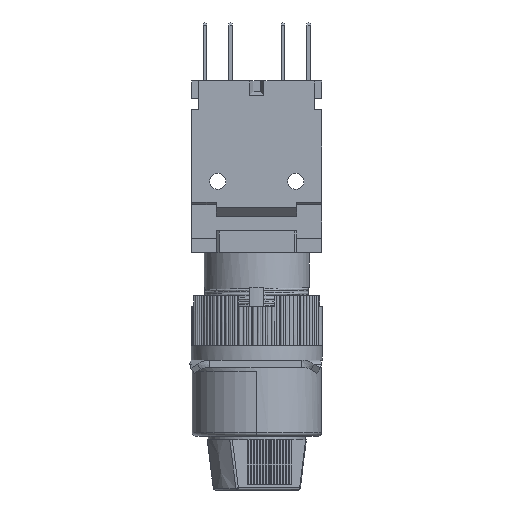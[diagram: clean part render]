
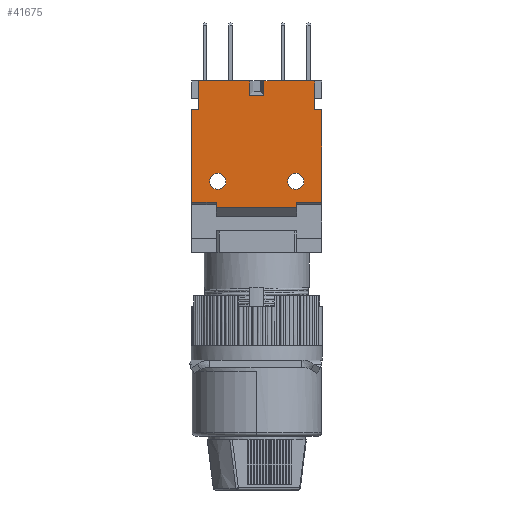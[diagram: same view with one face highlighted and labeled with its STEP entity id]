
A CAD part, front view. The second image highlights one B-rep face of the part: STEP entity #41675.
In plain terms, the highlighted planar face has unit normal (0, -1, 0).
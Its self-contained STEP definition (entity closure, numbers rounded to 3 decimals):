
#13012=DIRECTION('',(0.,0.,1.));
#13013=VECTOR('',#13012,4.);
#13014=CARTESIAN_POINT('',(17.1,0.05,-12.2));
#13015=LINE('',#13014,#13013);
#13096=DIRECTION('',(-1.,0.,0.));
#13097=VECTOR('',#13096,1.);
#13098=CARTESIAN_POINT('',(18.1,0.05,-12.2));
#13099=LINE('',#13098,#13097);
#13112=DIRECTION('',(1.,0.,0.));
#13113=VECTOR('',#13112,7.05);
#13114=CARTESIAN_POINT('',(10.05,0.05,-8.2));
#13115=LINE('',#13114,#13113);
#13116=DIRECTION('',(0.,0.,-1.));
#13117=VECTOR('',#13116,12.9);
#13118=CARTESIAN_POINT('',(18.1,0.05,-12.2));
#13119=LINE('',#13118,#13117);
#13120=DIRECTION('',(0.,0.,-1.));
#13121=VECTOR('',#13120,0.75);
#13122=CARTESIAN_POINT('',(14.6,0.05,-25.1));
#13123=LINE('',#13122,#13121);
#13124=DIRECTION('',(0.,0.,1.));
#13125=VECTOR('',#13124,12.9);
#13126=CARTESIAN_POINT('',(0.,0.05,-25.1));
#13127=LINE('',#13126,#13125);
#13128=DIRECTION('',(0.,0.,1.));
#13129=VECTOR('',#13128,4.);
#13130=CARTESIAN_POINT('',(1.,0.05,-12.2));
#13131=LINE('',#13130,#13129);
#13132=DIRECTION('',(1.,0.,0.));
#13133=VECTOR('',#13132,7.05);
#13134=CARTESIAN_POINT('',(1.,0.05,-8.2));
#13135=LINE('',#13134,#13133);
#13136=CARTESIAN_POINT('',(14.475,0.05,-22.165));
#13137=DIRECTION('',(0.,-1.,0.));
#13138=DIRECTION('',(-1.,0.,0.));
#13139=AXIS2_PLACEMENT_3D('',#13136,#13137,#13138);
#13141=CARTESIAN_POINT('',(14.475,0.05,-22.165));
#13142=DIRECTION('',(0.,-1.,0.));
#13143=DIRECTION('',(1.,0.,0.));
#13144=AXIS2_PLACEMENT_3D('',#13141,#13142,#13143);
#13146=CARTESIAN_POINT('',(3.625,0.05,-22.165));
#13147=DIRECTION('',(0.,-1.,0.));
#13148=DIRECTION('',(-1.,0.,0.));
#13149=AXIS2_PLACEMENT_3D('',#13146,#13147,#13148);
#13151=CARTESIAN_POINT('',(3.625,0.05,-22.165));
#13152=DIRECTION('',(0.,-1.,0.));
#13153=DIRECTION('',(1.,0.,0.));
#13154=AXIS2_PLACEMENT_3D('',#13151,#13152,#13153);
#13156=DIRECTION('',(0.,0.,-1.));
#13157=VECTOR('',#13156,2.);
#13158=CARTESIAN_POINT('',(10.05,0.05,-8.2));
#13159=LINE('',#13158,#13157);
#13160=DIRECTION('',(-1.,0.,0.));
#13161=VECTOR('',#13160,2.);
#13162=CARTESIAN_POINT('',(10.05,0.05,-10.2));
#13163=LINE('',#13162,#13161);
#13172=DIRECTION('',(0.,0.,1.));
#13173=VECTOR('',#13172,2.);
#13174=CARTESIAN_POINT('',(8.05,0.05,-10.2));
#13175=LINE('',#13174,#13173);
#13196=DIRECTION('',(1.,0.,0.));
#13197=VECTOR('',#13196,3.5);
#13198=CARTESIAN_POINT('',(14.6,0.05,-25.1));
#13199=LINE('',#13198,#13197);
#15186=DIRECTION('',(1.,0.,0.));
#15187=VECTOR('',#15186,3.4);
#15188=CARTESIAN_POINT('',(0.,0.05,-25.1));
#15189=LINE('',#15188,#15187);
#15198=DIRECTION('',(0.,0.,-1.));
#15199=VECTOR('',#15198,0.75);
#15200=CARTESIAN_POINT('',(3.4,0.05,-25.1));
#15201=LINE('',#15200,#15199);
#15206=DIRECTION('',(1.,0.,0.));
#15207=VECTOR('',#15206,11.2);
#15208=CARTESIAN_POINT('',(3.4,0.05,-25.85));
#15209=LINE('',#15208,#15207);
#15254=DIRECTION('',(-1.,0.,0.));
#15255=VECTOR('',#15254,1.);
#15256=CARTESIAN_POINT('',(1.,0.05,-12.2));
#15257=LINE('',#15256,#15255);
#18279=CARTESIAN_POINT('',(18.1,0.05,-25.1));
#18280=VERTEX_POINT('',#18279);
#18281=CARTESIAN_POINT('',(18.1,0.05,-12.2));
#18282=VERTEX_POINT('',#18281);
#18321=CARTESIAN_POINT('',(17.1,0.05,-8.2));
#18322=VERTEX_POINT('',#18321);
#18323=CARTESIAN_POINT('',(10.05,0.05,-8.2));
#18324=VERTEX_POINT('',#18323);
#18329=CARTESIAN_POINT('',(8.05,0.05,-8.2));
#18330=VERTEX_POINT('',#18329);
#18331=CARTESIAN_POINT('',(1.,0.05,-8.2));
#18332=VERTEX_POINT('',#18331);
#19549=CARTESIAN_POINT('',(14.6,0.05,-25.1));
#19550=CARTESIAN_POINT('',(14.6,0.05,-25.85));
#19551=VERTEX_POINT('',#19549);
#19552=VERTEX_POINT('',#19550);
#19657=CARTESIAN_POINT('',(0.,0.05,-12.2));
#19658=VERTEX_POINT('',#19657);
#19659=CARTESIAN_POINT('',(0.,0.05,-25.1));
#19661=VERTEX_POINT('',#19659);
#19686=CARTESIAN_POINT('',(1.,0.05,-12.2));
#19688=VERTEX_POINT('',#19686);
#19707=CARTESIAN_POINT('',(13.35,0.05,-22.165));
#19708=CARTESIAN_POINT('',(15.6,0.05,-22.165));
#19709=VERTEX_POINT('',#19707);
#19710=VERTEX_POINT('',#19708);
#19711=CARTESIAN_POINT('',(2.5,0.05,-22.165));
#19712=CARTESIAN_POINT('',(4.75,0.05,-22.165));
#19713=VERTEX_POINT('',#19711);
#19714=VERTEX_POINT('',#19712);
#19715=CARTESIAN_POINT('',(10.05,0.05,-10.2));
#19716=VERTEX_POINT('',#19715);
#19717=CARTESIAN_POINT('',(17.1,0.05,-12.2));
#19718=VERTEX_POINT('',#19717);
#19719=CARTESIAN_POINT('',(3.4,0.05,-25.85));
#19720=VERTEX_POINT('',#19719);
#19721=CARTESIAN_POINT('',(3.4,0.05,-25.1));
#19722=VERTEX_POINT('',#19721);
#19723=CARTESIAN_POINT('',(8.05,0.05,-10.2));
#19724=VERTEX_POINT('',#19723);
#41630=CARTESIAN_POINT('',(9.05,0.05,-17.025));
#41631=DIRECTION('',(0.,1.,0.));
#41632=DIRECTION('',(1.,0.,0.));
#41633=AXIS2_PLACEMENT_3D('',#41630,#41631,#41632);
#41634=PLANE('',#41633);
#41636=ORIENTED_EDGE('',*,*,#41635,.F.);
#41637=ORIENTED_EDGE('',*,*,#41342,.T.);
#41638=ORIENTED_EDGE('',*,*,#41487,.F.);
#41639=ORIENTED_EDGE('',*,*,#41622,.F.);
#41640=ORIENTED_EDGE('',*,*,#41046,.T.);
#41642=ORIENTED_EDGE('',*,*,#41641,.F.);
#41644=ORIENTED_EDGE('',*,*,#41643,.T.);
#41646=ORIENTED_EDGE('',*,*,#41645,.F.);
#41648=ORIENTED_EDGE('',*,*,#41647,.F.);
#41650=ORIENTED_EDGE('',*,*,#41649,.F.);
#41651=ORIENTED_EDGE('',*,*,#41179,.T.);
#41653=ORIENTED_EDGE('',*,*,#41652,.F.);
#41655=ORIENTED_EDGE('',*,*,#41654,.T.);
#41656=ORIENTED_EDGE('',*,*,#41350,.T.);
#41658=ORIENTED_EDGE('',*,*,#41657,.F.);
#41660=ORIENTED_EDGE('',*,*,#41659,.F.);
#41661=EDGE_LOOP('',(#41636,#41637,#41638,#41639,#41640,#41642,#41644,#41646,
#41648,#41650,#41651,#41653,#41655,#41656,#41658,#41660));
#41662=FACE_OUTER_BOUND('',#41661,.F.);
#41664=ORIENTED_EDGE('',*,*,#41663,.T.);
#41666=ORIENTED_EDGE('',*,*,#41665,.T.);
#41667=EDGE_LOOP('',(#41664,#41666));
#41668=FACE_BOUND('',#41667,.F.);
#41670=ORIENTED_EDGE('',*,*,#41669,.T.);
#41672=ORIENTED_EDGE('',*,*,#41671,.T.);
#41673=EDGE_LOOP('',(#41670,#41672));
#41674=FACE_BOUND('',#41673,.F.);
#41675=ADVANCED_FACE('',(#41662,#41668,#41674),#41634,.F.);
#13140=CIRCLE('',#13139,1.125);
#13145=CIRCLE('',#13144,1.125);
#13150=CIRCLE('',#13149,1.125);
#13155=CIRCLE('',#13154,1.125);
#41046=EDGE_CURVE('',#18282,#18280,#13119,.T.);
#41179=EDGE_CURVE('',#19661,#19658,#13127,.T.);
#41342=EDGE_CURVE('',#18324,#18322,#13115,.T.);
#41350=EDGE_CURVE('',#18332,#18330,#13135,.T.);
#41487=EDGE_CURVE('',#19718,#18322,#13015,.T.);
#41622=EDGE_CURVE('',#18282,#19718,#13099,.T.);
#41635=EDGE_CURVE('',#18324,#19716,#13159,.T.);
#41641=EDGE_CURVE('',#19551,#18280,#13199,.T.);
#41643=EDGE_CURVE('',#19551,#19552,#13123,.T.);
#41645=EDGE_CURVE('',#19720,#19552,#15209,.T.);
#41647=EDGE_CURVE('',#19722,#19720,#15201,.T.);
#41649=EDGE_CURVE('',#19661,#19722,#15189,.T.);
#41652=EDGE_CURVE('',#19688,#19658,#15257,.T.);
#41654=EDGE_CURVE('',#19688,#18332,#13131,.T.);
#41657=EDGE_CURVE('',#19724,#18330,#13175,.T.);
#41659=EDGE_CURVE('',#19716,#19724,#13163,.T.);
#41663=EDGE_CURVE('',#19709,#19710,#13140,.T.);
#41665=EDGE_CURVE('',#19710,#19709,#13145,.T.);
#41669=EDGE_CURVE('',#19713,#19714,#13150,.T.);
#41671=EDGE_CURVE('',#19714,#19713,#13155,.T.);
